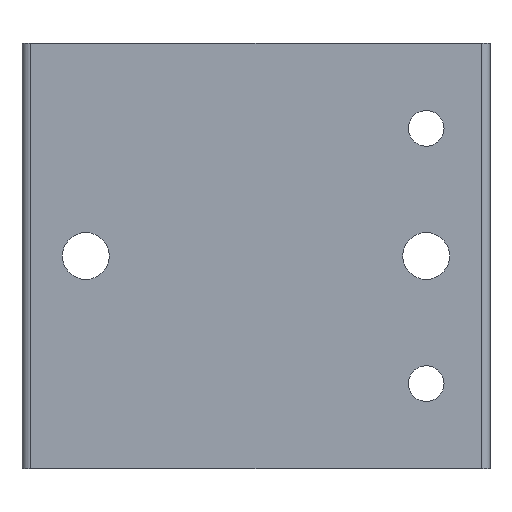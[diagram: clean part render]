
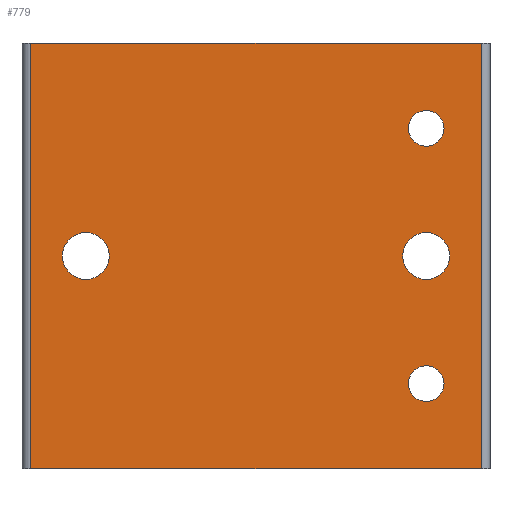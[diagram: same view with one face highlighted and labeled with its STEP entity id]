
A CAD part, front view. The second image highlights one B-rep face of the part: STEP entity #779.
In plain terms, the highlighted planar face has unit normal (0, -1, 0).
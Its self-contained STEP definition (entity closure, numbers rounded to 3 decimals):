
#226 = VERTEX_POINT ( 'NONE', #2065 ) ;
#248 = EDGE_CURVE ( 'NONE', #226, #296, #2043, .T. ) ;
#296 = VERTEX_POINT ( 'NONE', #5876 ) ;
#588 = VERTEX_POINT ( 'NONE', #2444 ) ;
#667 = ORIENTED_EDGE ( 'NONE', *, *, #668, .T. ) ;
#668 = EDGE_CURVE ( 'NONE', #739, #296, #2497, .T. ) ;
#678 = ORIENTED_EDGE ( 'NONE', *, *, #679, .T. ) ;
#679 = EDGE_CURVE ( 'NONE', #6142, #6141, #2460, .T. ) ;
#680 = ORIENTED_EDGE ( 'NONE', *, *, #6140, .T. ) ;
#681 = EDGE_LOOP ( 'NONE', ( #682, #684 ) ) ;
#682 = ORIENTED_EDGE ( 'NONE', *, *, #683, .T. ) ;
#683 = EDGE_CURVE ( 'NONE', #6417, #6416, #2489, .T. ) ;
#684 = ORIENTED_EDGE ( 'NONE', *, *, #6415, .T. ) ;
#685 = EDGE_LOOP ( 'NONE', ( #686, #688 ) ) ;
#686 = ORIENTED_EDGE ( 'NONE', *, *, #687, .T. ) ;
#687 = EDGE_CURVE ( 'NONE', #6186, #6394, #2484, .T. ) ;
#688 = ORIENTED_EDGE ( 'NONE', *, *, #6393, .T. ) ;
#689 = EDGE_LOOP ( 'NONE', ( #690, #795 ) ) ;
#690 = ORIENTED_EDGE ( 'NONE', *, *, #691, .T. ) ;
#691 = EDGE_CURVE ( 'NONE', #6229, #6290, #2582, .T. ) ;
#739 = VERTEX_POINT ( 'NONE', #2726 ) ;
#741 = EDGE_CURVE ( 'NONE', #588, #739, #2757, .T. ) ;
#779 = ADVANCED_FACE ( 'NONE', ( #2766, #2765, #2764, #2671, #2670 ), #2668, .F. ) ;
#795 = ORIENTED_EDGE ( 'NONE', *, *, #6363, .T. ) ;
#820 = ORIENTED_EDGE ( 'NONE', *, *, #741, .T. ) ;
#834 = ORIENTED_EDGE ( 'NONE', *, *, #248, .F. ) ;
#843 = EDGE_LOOP ( 'NONE', ( #834, #862, #820, #667 ) ) ;
#862 = ORIENTED_EDGE ( 'NONE', *, *, #864, .T. ) ;
#863 = EDGE_LOOP ( 'NONE', ( #678, #680 ) ) ;
#864 = EDGE_CURVE ( 'NONE', #226, #588, #2941, .T. ) ;
#2040 = DIRECTION ( 'NONE',  ( 1., 0., 0. ) ) ;
#2041 = VECTOR ( 'NONE', #2040, 1000. ) ;
#2042 = CARTESIAN_POINT ( 'NONE',  ( -25., -15., 25. ) ) ;
#2043 = LINE ( 'NONE', #2042, #2041 ) ;
#2065 = CARTESIAN_POINT ( 'NONE',  ( -24., -15., 25. ) ) ;
#2444 = CARTESIAN_POINT ( 'NONE',  ( -24., -15., -25. ) ) ;
#2458 = CARTESIAN_POINT ( 'NONE',  ( 22.5, -15., -15. ) ) ;
#2459 = AXIS2_PLACEMENT_3D ( 'NONE', #2458, #2491, #2490 ) ;
#2460 = CIRCLE ( 'NONE', #2459, 2.1 ) ;
#2483 = CARTESIAN_POINT ( 'NONE',  ( 22.5, -15., 0. ) ) ;
#2484 = CIRCLE ( 'NONE', #2585, 2.75 ) ;
#2485 = DIRECTION ( 'NONE',  ( -1., 0., 0. ) ) ;
#2486 = DIRECTION ( 'NONE',  ( 0., 1., 0. ) ) ;
#2487 = CARTESIAN_POINT ( 'NONE',  ( 22.5, -15., 15. ) ) ;
#2488 = AXIS2_PLACEMENT_3D ( 'NONE', #2487, #2486, #2485 ) ;
#2489 = CIRCLE ( 'NONE', #2488, 2.1 ) ;
#2490 = DIRECTION ( 'NONE',  ( -1., 0., 0. ) ) ;
#2491 = DIRECTION ( 'NONE',  ( 0., 1., 0. ) ) ;
#2494 = DIRECTION ( 'NONE',  ( 0., 0., 1. ) ) ;
#2495 = VECTOR ( 'NONE', #2494, 1000. ) ;
#2496 = CARTESIAN_POINT ( 'NONE',  ( 29., -15., 25. ) ) ;
#2497 = LINE ( 'NONE', #2496, #2495 ) ;
#2578 = DIRECTION ( 'NONE',  ( 0., 0., 1. ) ) ;
#2579 = DIRECTION ( 'NONE',  ( 0., 1., 0. ) ) ;
#2580 = CARTESIAN_POINT ( 'NONE',  ( -17.5, -15., 0. ) ) ;
#2581 = AXIS2_PLACEMENT_3D ( 'NONE', #2580, #2579, #2578 ) ;
#2582 = CIRCLE ( 'NONE', #2581, 2.75 ) ;
#2583 = DIRECTION ( 'NONE',  ( 0., 0., 1. ) ) ;
#2584 = DIRECTION ( 'NONE',  ( 0., 1., 0. ) ) ;
#2585 = AXIS2_PLACEMENT_3D ( 'NONE', #2483, #2584, #2583 ) ;
#2664 = DIRECTION ( 'NONE',  ( -1., 0., 0. ) ) ;
#2665 = DIRECTION ( 'NONE',  ( 0., 1., 0. ) ) ;
#2666 = CARTESIAN_POINT ( 'NONE',  ( -25., -15., 25. ) ) ;
#2667 = AXIS2_PLACEMENT_3D ( 'NONE', #2666, #2665, #2664 ) ;
#2668 = PLANE ( 'NONE',  #2667 ) ;
#2670 = FACE_OUTER_BOUND ( 'NONE', #843, .T. ) ;
#2671 = FACE_BOUND ( 'NONE', #689, .T. ) ;
#2726 = CARTESIAN_POINT ( 'NONE',  ( 29., -15., -25. ) ) ;
#2754 = DIRECTION ( 'NONE',  ( 1., 0., 0. ) ) ;
#2755 = VECTOR ( 'NONE', #2754, 1000. ) ;
#2756 = CARTESIAN_POINT ( 'NONE',  ( -25., -15., -25. ) ) ;
#2757 = LINE ( 'NONE', #2756, #2755 ) ;
#2764 = FACE_BOUND ( 'NONE', #685, .T. ) ;
#2765 = FACE_BOUND ( 'NONE', #681, .T. ) ;
#2766 = FACE_BOUND ( 'NONE', #863, .T. ) ;
#2938 = DIRECTION ( 'NONE',  ( 0., 0., -1. ) ) ;
#2939 = VECTOR ( 'NONE', #2938, 1000. ) ;
#2940 = CARTESIAN_POINT ( 'NONE',  ( -24., -15., 25. ) ) ;
#2941 = LINE ( 'NONE', #2940, #2939 ) ;
#4298 = DIRECTION ( 'NONE',  ( 0., 1., 0. ) ) ;
#4299 = CARTESIAN_POINT ( 'NONE',  ( 22.5, -15., -15. ) ) ;
#4300 = AXIS2_PLACEMENT_3D ( 'NONE', #4299, #4298, #4342 ) ;
#4301 = CIRCLE ( 'NONE', #4300, 2.1 ) ;
#4340 = CARTESIAN_POINT ( 'NONE',  ( 22.5, -15., -12.9 ) ) ;
#4341 = CARTESIAN_POINT ( 'NONE',  ( 22.5, -15., -17.1 ) ) ;
#4342 = DIRECTION ( 'NONE',  ( -1., 0., 0. ) ) ;
#4445 = CARTESIAN_POINT ( 'NONE',  ( 22.5, -15., 2.75 ) ) ;
#4476 = CARTESIAN_POINT ( 'NONE',  ( -17.5, -15., 2.75 ) ) ;
#4636 = CARTESIAN_POINT ( 'NONE',  ( -17.5, -15., -2.75 ) ) ;
#4746 = DIRECTION ( 'NONE',  ( 0., 0., 1. ) ) ;
#4747 = DIRECTION ( 'NONE',  ( 0., 1., 0. ) ) ;
#4748 = CARTESIAN_POINT ( 'NONE',  ( -17.5, -15., 0. ) ) ;
#4749 = AXIS2_PLACEMENT_3D ( 'NONE', #4748, #4747, #4746 ) ;
#4750 = CIRCLE ( 'NONE', #4749, 2.75 ) ;
#4847 = DIRECTION ( 'NONE',  ( 0., 0., 1. ) ) ;
#4848 = DIRECTION ( 'NONE',  ( 0., 1., 0. ) ) ;
#4849 = AXIS2_PLACEMENT_3D ( 'NONE', #4855, #4848, #4847 ) ;
#4850 = CIRCLE ( 'NONE', #4849, 2.75 ) ;
#4855 = CARTESIAN_POINT ( 'NONE',  ( 22.5, -15., 0. ) ) ;
#4896 = DIRECTION ( 'NONE',  ( 0., 1., 0. ) ) ;
#4897 = CARTESIAN_POINT ( 'NONE',  ( 22.5, -15., 15. ) ) ;
#4898 = AXIS2_PLACEMENT_3D ( 'NONE', #4897, #4896, #4996 ) ;
#4899 = CARTESIAN_POINT ( 'NONE',  ( 22.5, -15., -2.75 ) ) ;
#4964 = CIRCLE ( 'NONE', #4898, 2.1 ) ;
#4994 = CARTESIAN_POINT ( 'NONE',  ( 22.5, -15., 17.1 ) ) ;
#4995 = CARTESIAN_POINT ( 'NONE',  ( 22.5, -15., 12.9 ) ) ;
#4996 = DIRECTION ( 'NONE',  ( -1., 0., 0. ) ) ;
#5876 = CARTESIAN_POINT ( 'NONE',  ( 29., -15., 25. ) ) ;
#6140 = EDGE_CURVE ( 'NONE', #6141, #6142, #4301, .T. ) ;
#6141 = VERTEX_POINT ( 'NONE', #4341 ) ;
#6142 = VERTEX_POINT ( 'NONE', #4340 ) ;
#6186 = VERTEX_POINT ( 'NONE', #4445 ) ;
#6229 = VERTEX_POINT ( 'NONE', #4476 ) ;
#6290 = VERTEX_POINT ( 'NONE', #4636 ) ;
#6363 = EDGE_CURVE ( 'NONE', #6290, #6229, #4750, .T. ) ;
#6393 = EDGE_CURVE ( 'NONE', #6394, #6186, #4850, .T. ) ;
#6394 = VERTEX_POINT ( 'NONE', #4899 ) ;
#6415 = EDGE_CURVE ( 'NONE', #6416, #6417, #4964, .T. ) ;
#6416 = VERTEX_POINT ( 'NONE', #4995 ) ;
#6417 = VERTEX_POINT ( 'NONE', #4994 ) ;
